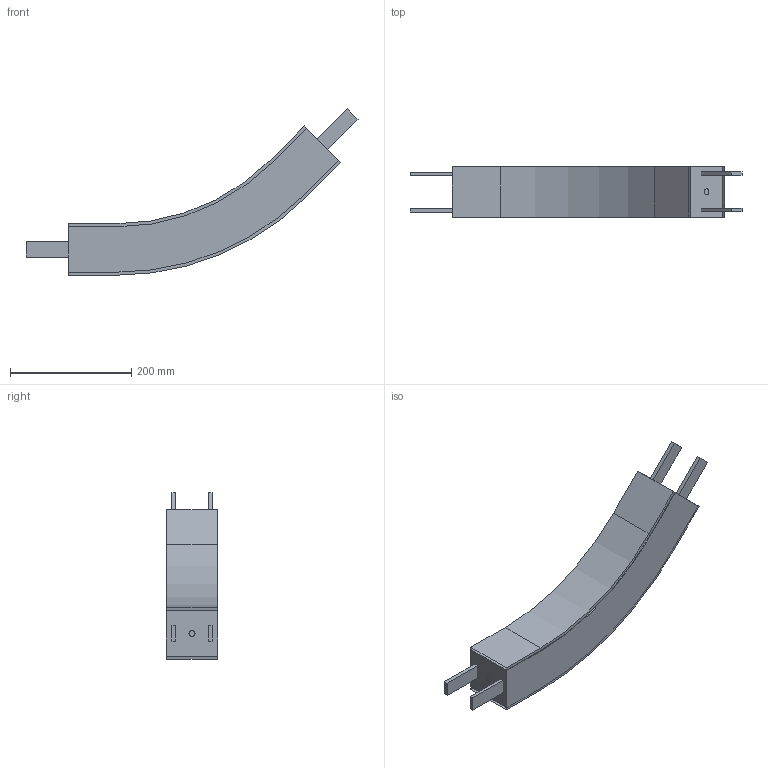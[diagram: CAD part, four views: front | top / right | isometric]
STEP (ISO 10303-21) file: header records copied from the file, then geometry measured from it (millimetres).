
FILE_DESCRIPTION(/* description */ ('Vertikaler Gleitbogen, 45°, R400'),/* implementation_level */ '2;1');
FILE_NAME(/* name */ 'T:\vdz0\Step Daten Website\modulflex FM-System\Vertikale Gleitbögen\FMBV 45R400_43837.stp',/* time_stamp */ '2024-09-03T10:39:19+02:00',/* author */ ('lzb0'),/* organization */ ('modular automation GmbH'),/* preprocessor_version */ 'ST-DEVELOPER v18.1',/* originating_system */ 'Autodesk Inventor 2021',/* authorisation */ '');
FILE_SCHEMA (('AUTOMOTIVE_DESIGN { 1 0 10303 214 3 1 1 }'));
Length unit declared in the file: millimetre
Products named in the file (1): FMBV 45R400
Bounding box: 547.75 x 85 x 274.56 mm (x, y, z)
Volume: 3106765.3 mm3; surface area: 367933.3 mm2
Topology: 5 solids, 9 shells, 52 faces, 126 edges, 84 vertices
Faces by surface type: plane 44, cylinder 8
Full cylindrical faces by diameter (mm): 10 x2
Entity records: 1598 total; most frequent: CARTESIAN_POINT 270, DIRECTION 250, ORIENTED_EDGE 232, EDGE_CURVE 126, LINE 110, VECTOR 110, VERTEX_POINT 84, AXIS2_PLACEMENT_3D 70
